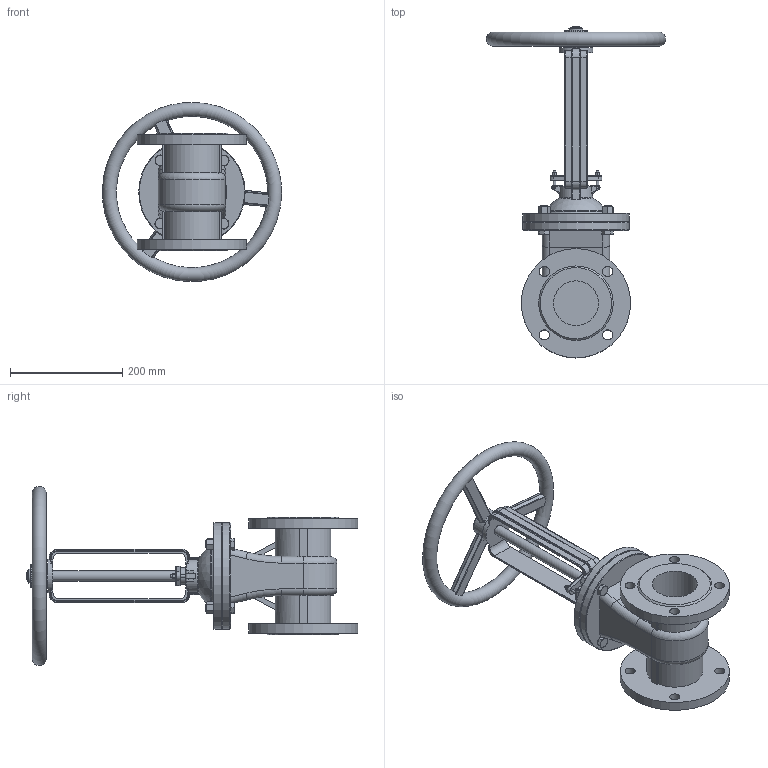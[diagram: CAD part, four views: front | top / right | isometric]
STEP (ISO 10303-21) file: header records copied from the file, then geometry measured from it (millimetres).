
FILE_DESCRIPTION(('STEP AP242'), '1');
FILE_NAME('GVWR2626M-2W-F-S Çàäâèæêà êëèíîâàÿ ñ âûäâèæíûì øòîêîì DN.ru Äó80 Ðó16', '', ('UNSPECIFIED'), ('UNSPECIFIED'), 'C3D Converter', 'C3D Toolkit', '');
FILE_SCHEMA(('AP242_MANAGED_MODEL_BASED_3D_ENGINEERING_MIM_LF { 1 0 10303 442 1 1 4 }'));
Length unit declared in the file: millimetre
Products named in the file (1): GVWR2626M-2W-F-S
Bounding box: 319.86 x 592.5 x 319.73 mm (x, y, z)
Volume: 4700826.4 mm3; surface area: 550136.6 mm2
Topology: 1 solids, 1 shells, 697 faces, 1724 edges, 1054 vertices
Faces by surface type: plane 298, cylinder 171, cone 109, torus 59, bspline 59, sphere 1
Full cylindrical faces by diameter (mm): 3 x3, 5 x4, 8 x2, 12 x8, 18 x10, 20 x1, 25 x1, 30 x1, 40 x2, 50 x1, 60 x1, 80 x2, 110 x2, 190 x2, 195 x2
Entity records: 38803 total; most frequent: CARTESIAN_POINT 18765, ORIENTED_EDGE 3310, DIRECTION 2988, EDGE_CURVE 1655, AXIS2_PLACEMENT_3D 1182, VERTEX_POINT 1049, EDGE_LOOP 840, FACE_BOUND 755
